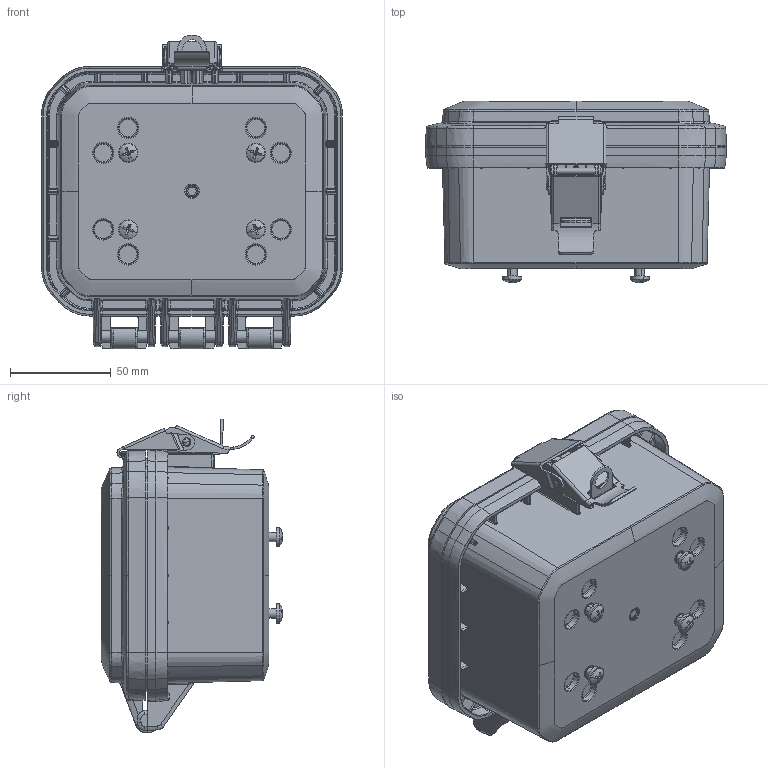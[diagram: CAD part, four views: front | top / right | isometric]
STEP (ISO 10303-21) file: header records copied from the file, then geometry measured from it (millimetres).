
FILE_DESCRIPTION (( 'STEP AP214' ), '1' );
FILE_NAME ('HP-050403-14.STEP', '2024-03-12T17:50:26', ( '' ), ( '' ), 'SwSTEP 2.0', 'SolidWorks 2024', '' );
FILE_SCHEMA (( 'AUTOMOTIVE_DESIGN' ));
Length unit declared in the file: inch
Products named in the file (15): HP-05041C_HP-05041C-02; HP-0504xBI_HP-05042BI-00; LABEL-105; HP-05041CG_HP-05041CG-02; ZH-01L; HP-050403-14; ZH-01L1; ZH-01L2; ZH-01L4; ZH-01L3; HP-0504xB_HP-05042B-00; INSERTS-4; ZH-01L5; SCREWS-049_SCREWS-049; HP-0504G
Assembly tree (20 placements, depth 3):
  HP-050403-14
    HP-0504xBI_HP-05042BI-00
      HP-0504xB_HP-05042B-00
      LABEL-105
      INSERTS-4  x4
    HP-05041CG_HP-05041CG-02
      HP-05041C_HP-05041C-02
      HP-0504G
    ZH-01L
      ZH-01L1
      ZH-01L2
      ZH-01L3
      ZH-01L4
      ZH-01L5
    SCREWS-049_SCREWS-049  x4
Bounding box: 149.61 x 90.27 x 156.17 mm (x, y, z)
Volume: 301209.7 mm3; surface area: 201403.1 mm2
Topology: 17 solids, 17 shells, 4282 faces, 10219 edges, 5918 vertices
Faces by surface type: bspline 1498, cylinder 937, plane 901, torus 480, cone 318, sphere 148
Entity records: 170699 total; most frequent: CARTESIAN_POINT 91194, ORIENTED_EDGE 18600, DIRECTION 14201, EDGE_CURVE 9300, AXIS2_PLACEMENT_3D 5859, VERTEX_POINT 5375, EDGE_LOOP 4035, ADVANCED_FACE 3973
